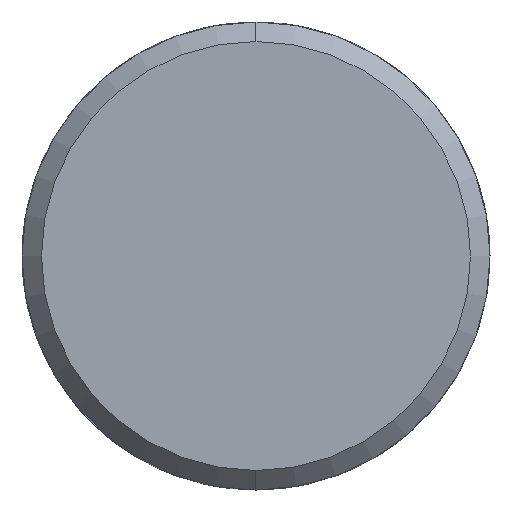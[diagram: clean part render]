
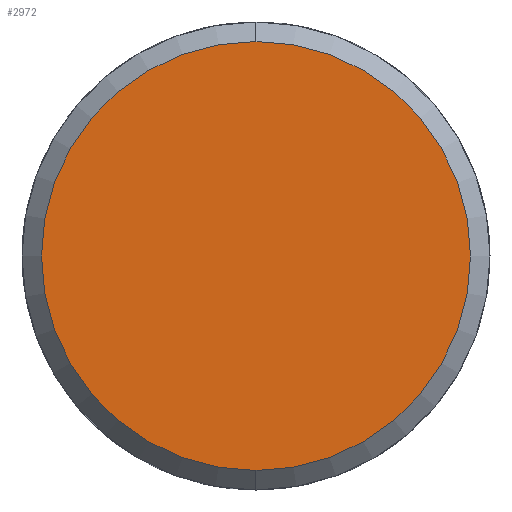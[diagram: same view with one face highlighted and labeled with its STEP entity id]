
A CAD part, left-side view. The second image highlights one B-rep face of the part: STEP entity #2972.
In plain terms, the highlighted planar face has unit normal (-1, 0, 0).
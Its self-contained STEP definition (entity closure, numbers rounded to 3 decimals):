
#364 = ORIENTED_EDGE ( 'NONE', *, *, #6693, .F. ) ;
#444 = ORIENTED_EDGE ( 'NONE', *, *, #8325, .F. ) ;
#817 = FACE_OUTER_BOUND ( 'NONE', #3322, .T. ) ;
#1514 = DIRECTION ( 'NONE',  ( 1., 0., 0. ) ) ;
#2189 = AXIS2_PLACEMENT_3D ( 'NONE', #6098, #1514, #6856 ) ;
#2972 = ADVANCED_FACE ( 'NONE', ( #817 ), #9761, .T. ) ;
#3322 = EDGE_LOOP ( 'NONE', ( #444, #364 ) ) ;
#4449 = VERTEX_POINT ( 'NONE', #6030 ) ;
#4457 = CARTESIAN_POINT ( 'NONE',  ( 0., 0., 0. ) ) ;
#4719 = CARTESIAN_POINT ( 'NONE',  ( 0., 0., 5.5 ) ) ;
#4811 = AXIS2_PLACEMENT_3D ( 'NONE', #6766, #6744, #6735 ) ;
#4892 = VERTEX_POINT ( 'NONE', #4719 ) ;
#5152 = CIRCLE ( 'NONE', #2189, 5.5 ) ;
#5220 = DIRECTION ( 'NONE',  ( 0., 0., 1. ) ) ;
#6030 = CARTESIAN_POINT ( 'NONE',  ( 0., 0., -5.5 ) ) ;
#6098 = CARTESIAN_POINT ( 'NONE',  ( 0., 0., 0. ) ) ;
#6693 = EDGE_CURVE ( 'NONE', #4892, #4449, #7828, .T. ) ;
#6735 = DIRECTION ( 'NONE',  ( 0., 0., -1. ) ) ;
#6744 = DIRECTION ( 'NONE',  ( 1., 0., 0. ) ) ;
#6766 = CARTESIAN_POINT ( 'NONE',  ( 0., 0., 0. ) ) ;
#6856 = DIRECTION ( 'NONE',  ( 0., 0., -1. ) ) ;
#7828 = CIRCLE ( 'NONE', #4811, 5.5 ) ;
#8325 = EDGE_CURVE ( 'NONE', #4449, #4892, #5152, .T. ) ;
#9068 = AXIS2_PLACEMENT_3D ( 'NONE', #4457, #9794, #5220 ) ;
#9761 = PLANE ( 'NONE',  #9068 ) ;
#9794 = DIRECTION ( 'NONE',  ( -1., 0., 0. ) ) ;
